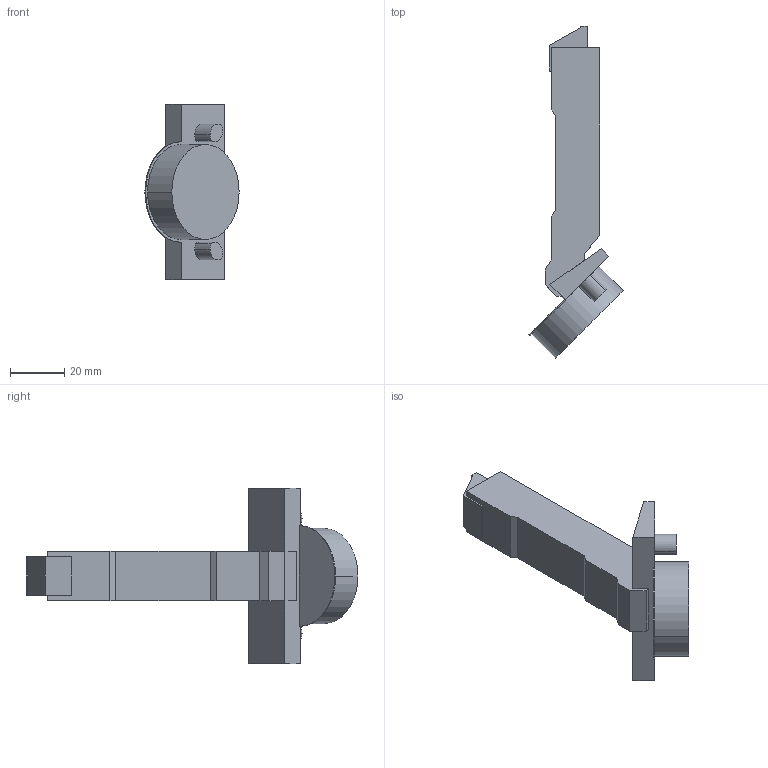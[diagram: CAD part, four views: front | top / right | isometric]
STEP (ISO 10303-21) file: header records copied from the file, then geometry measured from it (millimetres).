
FILE_DESCRIPTION (( 'STEP AP214' ), '1' );
FILE_NAME ('Scharnier TS Impresso 120°_-45° GB_BB, aufliegend - Neu -.step', '2019-09-17T09:44:49', ( '' ), ( '' ), 'SwSTEP 2.0', 'SolidWorks 2019', '' );
FILE_SCHEMA (( 'AUTOMOTIVE_DESIGN' ));
Length unit declared in the file: millimetre
Products named in the file (1): Scharnier TS Impresso 120°_-45° GB_BB, aufliegend - Neu -
Bounding box: 34.65 x 122.12 x 64.5 mm (x, y, z)
Volume: 47770.3 mm3; surface area: 13129.5 mm2
Topology: 1 solids, 1 shells, 53 faces, 135 edges, 90 vertices
Faces by surface type: plane 38, cylinder 15
Entity records: 1633 total; most frequent: CARTESIAN_POINT 279, DIRECTION 273, ORIENTED_EDGE 270, EDGE_CURVE 135, VECTOR 105, LINE 105, VERTEX_POINT 90, AXIS2_PLACEMENT_3D 84
